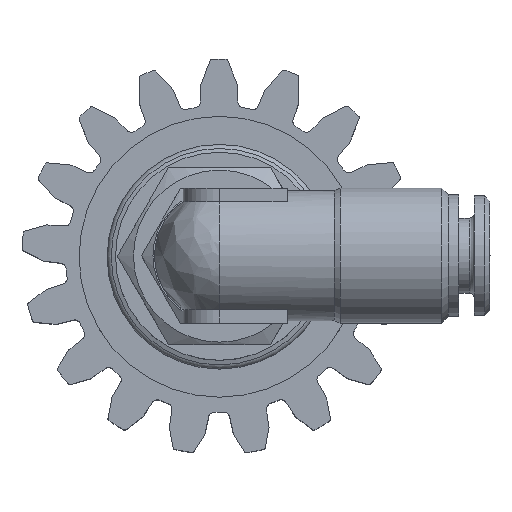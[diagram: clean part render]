
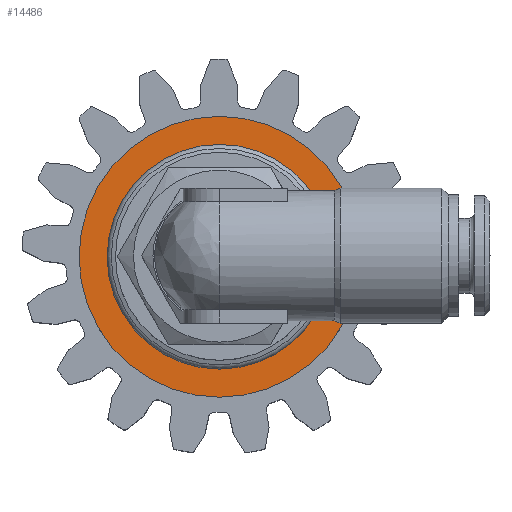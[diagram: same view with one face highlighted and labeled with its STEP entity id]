
A CAD part, top view. The second image highlights one B-rep face of the part: STEP entity #14486.
In plain terms, the highlighted planar face has unit normal (0, 0, 1) as drawn and (0, 1, 0) by its records, which use the part's own axes.
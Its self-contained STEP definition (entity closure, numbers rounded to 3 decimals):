
#1598 = VERTEX_POINT ( 'NONE', #8587 ) ;
#3699 = EDGE_LOOP ( 'NONE', ( #20707 ) ) ;
#5522 = AXIS2_PLACEMENT_3D ( 'NONE', #10463, #19745, #8471 ) ;
#6585 = FACE_BOUND ( 'NONE', #3699, .T. ) ;
#8471 = DIRECTION ( 'NONE',  ( 0., 0., 1. ) ) ;
#8587 = CARTESIAN_POINT ( 'NONE',  ( 0., 0.6, 10.8 ) ) ;
#8726 = VERTEX_POINT ( 'NONE', #18327 ) ;
#10463 = CARTESIAN_POINT ( 'NONE',  ( 0., 0.6, 0. ) ) ;
#11606 = CARTESIAN_POINT ( 'NONE',  ( 13.5, 0.6, 0. ) ) ;
#13745 = DIRECTION ( 'NONE',  ( 0., 0., -1. ) ) ;
#14486 = ADVANCED_FACE ( 'NONE', ( #6585, #25434 ), #27426, .F. ) ;
#14744 = CIRCLE ( 'NONE', #5522, 13.5 ) ;
#15176 = AXIS2_PLACEMENT_3D ( 'NONE', #18769, #20603, #27437 ) ;
#16157 = DIRECTION ( 'NONE',  ( 0., -1., 0. ) ) ;
#18064 = AXIS2_PLACEMENT_3D ( 'NONE', #11606, #16157, #13745 ) ;
#18327 = CARTESIAN_POINT ( 'NONE',  ( 0., 0.6, 13.5 ) ) ;
#18769 = CARTESIAN_POINT ( 'NONE',  ( 0., 0.6, 0. ) ) ;
#19302 = EDGE_CURVE ( 'NONE', #1598, #1598, #29744, .T. ) ;
#19745 = DIRECTION ( 'NONE',  ( 0., 1., 0. ) ) ;
#20603 = DIRECTION ( 'NONE',  ( 0., 1., 0. ) ) ;
#20707 = ORIENTED_EDGE ( 'NONE', *, *, #19302, .F. ) ;
#21458 = EDGE_CURVE ( 'NONE', #8726, #8726, #14744, .T. ) ;
#23339 = EDGE_LOOP ( 'NONE', ( #26589 ) ) ;
#25434 = FACE_OUTER_BOUND ( 'NONE', #23339, .T. ) ;
#26589 = ORIENTED_EDGE ( 'NONE', *, *, #21458, .T. ) ;
#27426 = PLANE ( 'NONE',  #18064 ) ;
#27437 = DIRECTION ( 'NONE',  ( 0., 0., 1. ) ) ;
#29744 = CIRCLE ( 'NONE', #15176, 10.8 ) ;
